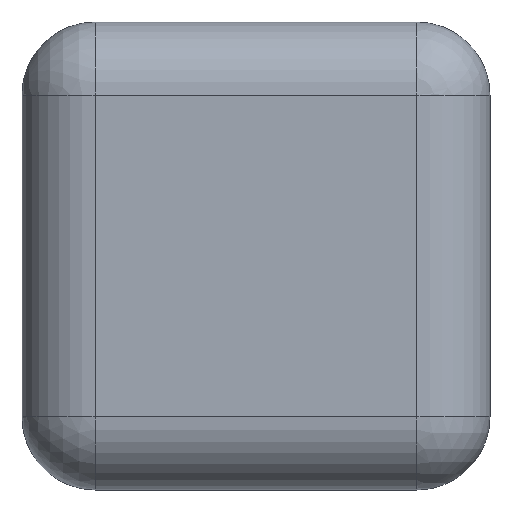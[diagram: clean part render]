
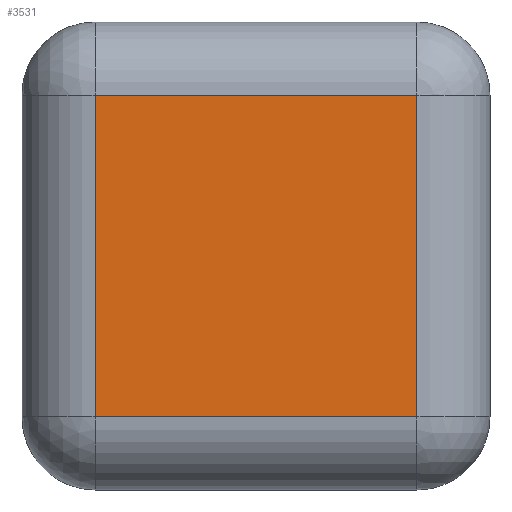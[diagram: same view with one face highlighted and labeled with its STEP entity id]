
A CAD part, front view. The second image highlights one B-rep face of the part: STEP entity #3531.
In plain terms, the highlighted planar face has unit normal (0, -1, 0).
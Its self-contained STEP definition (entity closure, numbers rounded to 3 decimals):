
#700 = CARTESIAN_POINT ( 'NONE',  ( -110., 0., 110. ) ) ;
#989 = PLANE ( 'NONE',  #1296 ) ;
#1296 = AXIS2_PLACEMENT_3D ( 'NONE', #13226, #17827, #4080 ) ;
#1922 = CARTESIAN_POINT ( 'NONE',  ( -110., 0., 0. ) ) ;
#2878 = ORIENTED_EDGE ( 'NONE', *, *, #10474, .T. ) ;
#3313 = CARTESIAN_POINT ( 'NONE',  ( 0., 0., 110. ) ) ;
#3531 = ADVANCED_FACE ( 'NONE', ( #16719 ), #989, .F. ) ;
#3802 = DIRECTION ( 'NONE',  ( 1., 0., 0. ) ) ;
#4006 = VERTEX_POINT ( 'NONE', #6358 ) ;
#4080 = DIRECTION ( 'NONE',  ( 0., 0., 1. ) ) ;
#4091 = EDGE_CURVE ( 'NONE', #14269, #4006, #13136, .T. ) ;
#4633 = DIRECTION ( 'NONE',  ( 0., 0., 1. ) ) ;
#6201 = ORIENTED_EDGE ( 'NONE', *, *, #16753, .T. ) ;
#6347 = CARTESIAN_POINT ( 'NONE',  ( 110., 0., 0. ) ) ;
#6358 = CARTESIAN_POINT ( 'NONE',  ( 110., 0., -110. ) ) ;
#6436 = DIRECTION ( 'NONE',  ( 0., 0., -1. ) ) ;
#6675 = ORIENTED_EDGE ( 'NONE', *, *, #7510, .T. ) ;
#7510 = EDGE_CURVE ( 'NONE', #8523, #18836, #15252, .T. ) ;
#8523 = VERTEX_POINT ( 'NONE', #12096 ) ;
#8860 = LINE ( 'NONE', #6347, #11261 ) ;
#10474 = EDGE_CURVE ( 'NONE', #4006, #8523, #8860, .T. ) ;
#11181 = CARTESIAN_POINT ( 'NONE',  ( 0., 0., -110. ) ) ;
#11261 = VECTOR ( 'NONE', #4633, 1000. ) ;
#12096 = CARTESIAN_POINT ( 'NONE',  ( 110., 0., 110. ) ) ;
#12753 = VECTOR ( 'NONE', #3802, 1000. ) ;
#12893 = ORIENTED_EDGE ( 'NONE', *, *, #4091, .T. ) ;
#13136 = LINE ( 'NONE', #11181, #12753 ) ;
#13226 = CARTESIAN_POINT ( 'NONE',  ( 0., 0., 0. ) ) ;
#14269 = VERTEX_POINT ( 'NONE', #15385 ) ;
#15252 = LINE ( 'NONE', #3313, #18486 ) ;
#15358 = DIRECTION ( 'NONE',  ( -1., 0., 0. ) ) ;
#15385 = CARTESIAN_POINT ( 'NONE',  ( -110., 0., -110. ) ) ;
#16719 = FACE_OUTER_BOUND ( 'NONE', #17106, .T. ) ;
#16753 = EDGE_CURVE ( 'NONE', #18836, #14269, #18872, .T. ) ;
#17106 = EDGE_LOOP ( 'NONE', ( #6201, #12893, #2878, #6675 ) ) ;
#17827 = DIRECTION ( 'NONE',  ( 0., 1., 0. ) ) ;
#18486 = VECTOR ( 'NONE', #15358, 1000. ) ;
#18836 = VERTEX_POINT ( 'NONE', #700 ) ;
#18841 = VECTOR ( 'NONE', #6436, 1000. ) ;
#18872 = LINE ( 'NONE', #1922, #18841 ) ;
